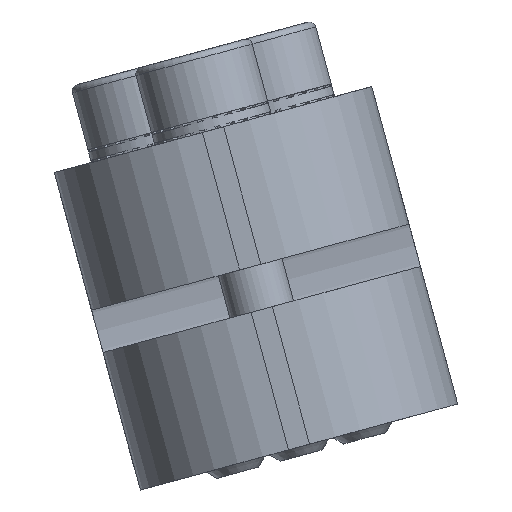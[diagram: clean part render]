
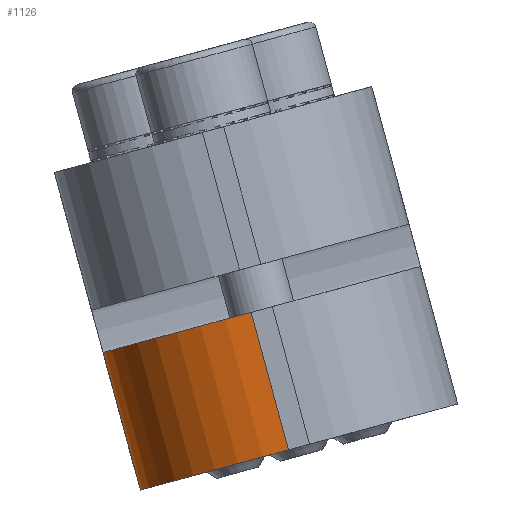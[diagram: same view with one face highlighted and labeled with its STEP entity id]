
A CAD part, front view. The second image highlights one B-rep face of the part: STEP entity #1126.
In plain terms, the highlighted cylindrical face has radius 7 mm (diameter 14 mm), a partial arc.
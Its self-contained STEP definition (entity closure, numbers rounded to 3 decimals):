
#1126=ADVANCED_FACE('',(#2184),#2185,.T.);
#2184=FACE_OUTER_BOUND('',#3303,.T.);
#2185=CYLINDRICAL_SURFACE('',#3304,7.0);
#3303=EDGE_LOOP('',(#7987,#7988,#7989,#7990));
#3304=AXIS2_PLACEMENT_3D('',#7991,#7992,#7993);
#7987=ORIENTED_EDGE('',*,*,#9731,.T.);
#7988=ORIENTED_EDGE('',*,*,#9732,.T.);
#7989=ORIENTED_EDGE('',*,*,#9733,.F.);
#7990=ORIENTED_EDGE('',*,*,#9734,.T.);
#7991=CARTESIAN_POINT('',(0.5,15.0,11.0));
#7992=DIRECTION('',(0.0,1.0,0.0));
#7993=DIRECTION('',(0.0,0.0,1.0));
#9731=EDGE_CURVE('',#11465,#11466,#11467,.T.);
#9732=EDGE_CURVE('',#11466,#11468,#11469,.T.);
#9733=EDGE_CURVE('',#11470,#11468,#11471,.T.);
#9734=EDGE_CURVE('',#11470,#11465,#11472,.F.);
#11465=VERTEX_POINT('',#13876);
#11466=VERTEX_POINT('',#13877);
#11467=CIRCLE('',#13878,7.0);
#11468=VERTEX_POINT('',#13879);
#11469=LINE('',#13880,#13881);
#11470=VERTEX_POINT('',#13882);
#11471=CIRCLE('',#13883,7.0);
#11472=LINE('',#13884,#13885);
#13876=CARTESIAN_POINT('',(0.5,8.5,18.0));
#13877=CARTESIAN_POINT('',(7.5,8.5,11.0));
#13878=AXIS2_PLACEMENT_3D('',#16258,#16259,#16260);
#13879=CARTESIAN_POINT('',(7.5,15.0,11.0));
#13880=CARTESIAN_POINT('',(7.5,15.0,11.0));
#13881=VECTOR('',#16261,1.0);
#13882=CARTESIAN_POINT('',(0.5,15.0,18.0));
#13883=AXIS2_PLACEMENT_3D('',#16262,#16263,#16264);
#13884=CARTESIAN_POINT('',(0.5,15.0,18.0));
#13885=VECTOR('',#16265,1.0);
#16258=CARTESIAN_POINT('',(0.5,8.5,11.0));
#16259=DIRECTION('',(0.0,1.0,0.0));
#16260=DIRECTION('',(0.0,0.0,1.0));
#16261=DIRECTION('',(0.0,1.0,0.0));
#16262=CARTESIAN_POINT('',(0.5,15.0,11.0));
#16263=DIRECTION('',(0.0,1.0,0.0));
#16264=DIRECTION('',(0.0,0.0,1.0));
#16265=DIRECTION('',(0.0,1.0,0.0));
